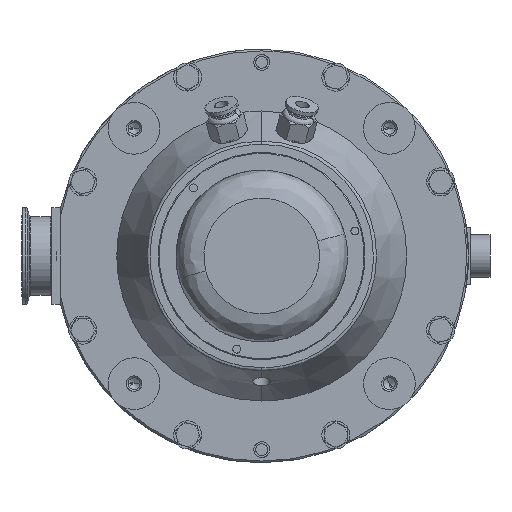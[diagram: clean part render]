
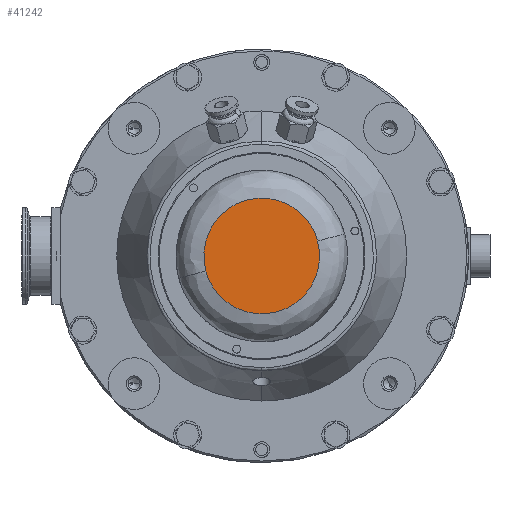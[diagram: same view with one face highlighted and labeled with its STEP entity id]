
A CAD part, front view. The second image highlights one B-rep face of the part: STEP entity #41242.
In plain terms, the highlighted planar face has unit normal (0, -1, 0).
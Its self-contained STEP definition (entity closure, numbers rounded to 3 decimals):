
#1460 =( BOUNDED_CURVE ( )  B_SPLINE_CURVE ( 3, ( #33499, #33306, #16651, #46260 ),
 .UNSPECIFIED., .F., .F. ) 
 B_SPLINE_CURVE_WITH_KNOTS ( ( 4, 4 ),
 ( 0., 1. ),
 .UNSPECIFIED. ) 
 CURVE ( )  GEOMETRIC_REPRESENTATION_ITEM ( )  RATIONAL_B_SPLINE_CURVE ( ( 1., 0.805, 0.805, 1. ) ) 
 REPRESENTATION_ITEM ( '' )  );
#1591 =( BOUNDED_CURVE ( )  B_SPLINE_CURVE ( 3, ( #28512, #32949, #37218, #11858 ),
 .UNSPECIFIED., .F., .T. ) 
 B_SPLINE_CURVE_WITH_KNOTS ( ( 4, 4 ),
 ( 0., 1. ),
 .UNSPECIFIED. ) 
 CURVE ( )  GEOMETRIC_REPRESENTATION_ITEM ( )  RATIONAL_B_SPLINE_CURVE ( ( 1., 0.805, 0.805, 1. ) ) 
 REPRESENTATION_ITEM ( '' )  );
#3981 =( BOUNDED_CURVE ( )  B_SPLINE_CURVE ( 3, ( #29455, #12615, #42217, #16862 ),
 .UNSPECIFIED., .F., .T. ) 
 B_SPLINE_CURVE_WITH_KNOTS ( ( 4, 4 ),
 ( 0., 1. ),
 .UNSPECIFIED. ) 
 CURVE ( )  GEOMETRIC_REPRESENTATION_ITEM ( )  RATIONAL_B_SPLINE_CURVE ( ( 1., 0.805, 0.805, 1. ) ) 
 REPRESENTATION_ITEM ( '' )  );
#11177 = EDGE_CURVE ( 'NONE', #29048, #30189, #12051, .T. ) ;
#11591 = PLANE ( 'NONE',  #24478 ) ;
#11858 = CARTESIAN_POINT ( 'NONE',  ( -33., -66., 0. ) ) ;
#11899 = CARTESIAN_POINT ( 'NONE',  ( 0., -66., 33. ) ) ;
#12023 = CARTESIAN_POINT ( 'NONE',  ( 0., -66., 33. ) ) ;
#12051 =( BOUNDED_CURVE ( )  B_SPLINE_CURVE ( 3, ( #11899, #32986, #32807, #41495 ),
 .UNSPECIFIED., .F., .T. ) 
 B_SPLINE_CURVE_WITH_KNOTS ( ( 4, 4 ),
 ( 0., 1. ),
 .UNSPECIFIED. ) 
 CURVE ( )  GEOMETRIC_REPRESENTATION_ITEM ( )  RATIONAL_B_SPLINE_CURVE ( ( 1., 0.805, 0.805, 1. ) ) 
 REPRESENTATION_ITEM ( '' )  );
#12615 = CARTESIAN_POINT ( 'NONE',  ( 33., -66., -19.331 ) ) ;
#16023 = DIRECTION ( 'NONE',  ( 0., 0., -1. ) ) ;
#16651 = CARTESIAN_POINT ( 'NONE',  ( -19.331, -66., 33. ) ) ;
#16862 = CARTESIAN_POINT ( 'NONE',  ( 0., -66., -33. ) ) ;
#17665 = EDGE_CURVE ( 'NONE', #30189, #40025, #3981, .T. ) ;
#21592 = EDGE_LOOP ( 'NONE', ( #31620, #47787, #26414, #40769 ) ) ;
#24478 = AXIS2_PLACEMENT_3D ( 'NONE', #53951, #41372, #16023 ) ;
#26414 = ORIENTED_EDGE ( 'NONE', *, *, #11177, .F. ) ;
#28512 = CARTESIAN_POINT ( 'NONE',  ( 0., -66., -33. ) ) ;
#29048 = VERTEX_POINT ( 'NONE', #12023 ) ;
#29075 = CARTESIAN_POINT ( 'NONE',  ( -33., -66., 0. ) ) ;
#29455 = CARTESIAN_POINT ( 'NONE',  ( 33., -66., 0. ) ) ;
#30189 = VERTEX_POINT ( 'NONE', #32649 ) ;
#31620 = ORIENTED_EDGE ( 'NONE', *, *, #52634, .F. ) ;
#31967 = FACE_OUTER_BOUND ( 'NONE', #21592, .T. ) ;
#32649 = CARTESIAN_POINT ( 'NONE',  ( 33., -66., 0. ) ) ;
#32807 = CARTESIAN_POINT ( 'NONE',  ( 33., -66., 19.331 ) ) ;
#32949 = CARTESIAN_POINT ( 'NONE',  ( -19.331, -66., -33. ) ) ;
#32986 = CARTESIAN_POINT ( 'NONE',  ( 19.331, -66., 33. ) ) ;
#33306 = CARTESIAN_POINT ( 'NONE',  ( -33., -66., 19.331 ) ) ;
#33499 = CARTESIAN_POINT ( 'NONE',  ( -33., -66., 0. ) ) ;
#35984 = VERTEX_POINT ( 'NONE', #29075 ) ;
#37218 = CARTESIAN_POINT ( 'NONE',  ( -33., -66., -19.331 ) ) ;
#38666 = CARTESIAN_POINT ( 'NONE',  ( 0., -66., -33. ) ) ;
#40025 = VERTEX_POINT ( 'NONE', #38666 ) ;
#40769 = ORIENTED_EDGE ( 'NONE', *, *, #44470, .F. ) ;
#41242 = ADVANCED_FACE ( 'NONE', ( #31967 ), #11591, .T. ) ;
#41372 = DIRECTION ( 'NONE',  ( 0., -1., 0. ) ) ;
#41495 = CARTESIAN_POINT ( 'NONE',  ( 33., -66., 0. ) ) ;
#42217 = CARTESIAN_POINT ( 'NONE',  ( 19.331, -66., -33. ) ) ;
#44470 = EDGE_CURVE ( 'NONE', #35984, #29048, #1460, .T. ) ;
#46260 = CARTESIAN_POINT ( 'NONE',  ( 0., -66., 33. ) ) ;
#47787 = ORIENTED_EDGE ( 'NONE', *, *, #17665, .F. ) ;
#52634 = EDGE_CURVE ( 'NONE', #40025, #35984, #1591, .T. ) ;
#53951 = CARTESIAN_POINT ( 'NONE',  ( -49., -66., 0. ) ) ;
